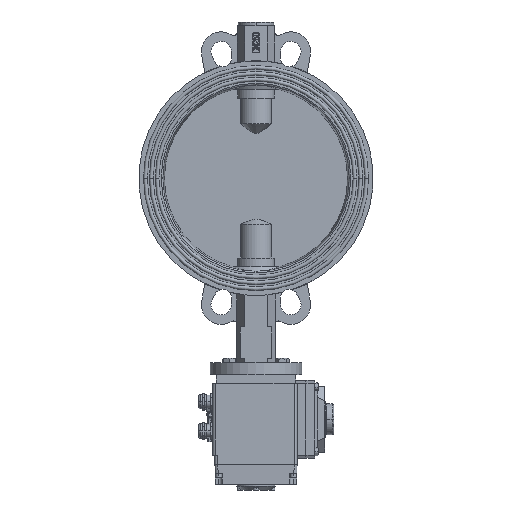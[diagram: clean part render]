
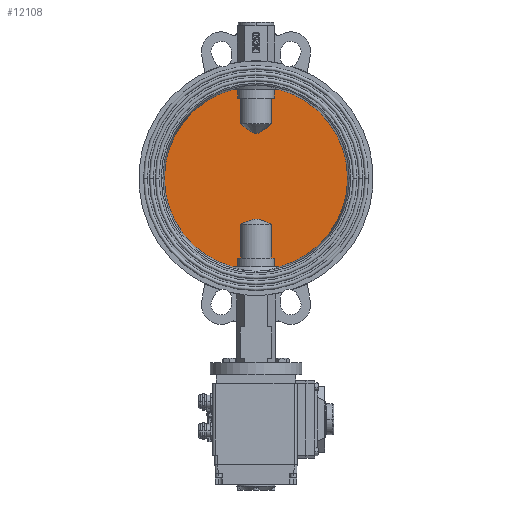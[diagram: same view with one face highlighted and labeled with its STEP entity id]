
A CAD part, front view. The second image highlights one B-rep face of the part: STEP entity #12108.
In plain terms, the highlighted planar face has unit normal (0, -1, 0) as drawn and (0, 1, 0) by its records, which use the part's own axes.
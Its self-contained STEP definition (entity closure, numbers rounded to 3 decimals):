
#11507=DIRECTION('',(0.,0.,-1.));
#11508=VECTOR('',#11507,12.);
#11509=CARTESIAN_POINT('',(25.174,6.5,-109.));
#11510=LINE('',#11509,#11508);
#11511=DIRECTION('',(1.,0.,0.));
#11512=VECTOR('',#11511,6.194);
#11513=CARTESIAN_POINT('',(25.174,6.5,-121.));
#11514=LINE('',#11513,#11512);
#11515=DIRECTION('',(-1.,0.,0.));
#11516=VECTOR('',#11515,6.711);
#11517=CARTESIAN_POINT('',(31.369,6.5,121.));
#11518=LINE('',#11517,#11516);
#11519=DIRECTION('',(0.,0.,-1.));
#11520=VECTOR('',#11519,12.);
#11521=CARTESIAN_POINT('',(24.658,6.5,121.));
#11522=LINE('',#11521,#11520);
#11523=DIRECTION('',(-1.,0.,0.));
#11524=VECTOR('',#11523,3.64);
#11525=CARTESIAN_POINT('',(24.658,6.5,109.));
#11526=LINE('',#11525,#11524);
#11527=DIRECTION('',(0.,0.,-1.));
#11528=VECTOR('',#11527,46.);
#11529=CARTESIAN_POINT('',(21.018,6.5,109.));
#11530=LINE('',#11529,#11528);
#11531=DIRECTION('',(0.,0.,-1.));
#11532=VECTOR('',#11531,46.);
#11533=CARTESIAN_POINT('',(-21.018,6.5,109.));
#11534=LINE('',#11533,#11532);
#11535=DIRECTION('',(-1.,0.,0.));
#11536=VECTOR('',#11535,3.64);
#11537=CARTESIAN_POINT('',(-21.018,6.5,109.));
#11538=LINE('',#11537,#11536);
#11539=DIRECTION('',(0.,0.,-1.));
#11540=VECTOR('',#11539,12.);
#11541=CARTESIAN_POINT('',(-24.658,6.5,121.));
#11542=LINE('',#11541,#11540);
#11543=DIRECTION('',(-1.,0.,0.));
#11544=VECTOR('',#11543,6.711);
#11545=CARTESIAN_POINT('',(-24.658,6.5,121.));
#11546=LINE('',#11545,#11544);
#11547=DIRECTION('',(1.,0.,0.));
#11548=VECTOR('',#11547,6.194);
#11549=CARTESIAN_POINT('',(-31.369,6.5,-121.));
#11550=LINE('',#11549,#11548);
#11551=DIRECTION('',(0.,0.,-1.));
#11552=VECTOR('',#11551,12.);
#11553=CARTESIAN_POINT('',(-25.174,6.5,-109.));
#11554=LINE('',#11553,#11552);
#11555=DIRECTION('',(-1.,0.,0.));
#11556=VECTOR('',#11555,4.157);
#11557=CARTESIAN_POINT('',(-21.018,6.5,-109.));
#11558=LINE('',#11557,#11556);
#11559=DIRECTION('',(0.,0.,-1.));
#11560=VECTOR('',#11559,35.);
#11561=CARTESIAN_POINT('',(-21.018,6.5,-74.));
#11562=LINE('',#11561,#11560);
#11563=DIRECTION('',(0.,0.,-1.));
#11564=VECTOR('',#11563,35.);
#11565=CARTESIAN_POINT('',(21.018,6.5,-74.));
#11566=LINE('',#11565,#11564);
#11567=DIRECTION('',(-1.,0.,0.));
#11568=VECTOR('',#11567,4.157);
#11569=CARTESIAN_POINT('',(25.174,6.5,-109.));
#11570=LINE('',#11569,#11568);
#11580=CARTESIAN_POINT('',(0.,6.5,0.));
#11581=DIRECTION('',(0.,1.,0.));
#11582=DIRECTION('',(0.251,0.,0.968));
#11583=AXIS2_PLACEMENT_3D('',#11580,#11581,#11582);
#11589=CARTESIAN_POINT('',(0.,6.5,0.));
#11590=DIRECTION('',(0.,1.,0.));
#11591=DIRECTION('',(-0.251,0.,-0.968));
#11592=AXIS2_PLACEMENT_3D('',#11589,#11590,#11591);
#11693=CARTESIAN_POINT('',(-21.018,6.5,63.));
#11694=CARTESIAN_POINT('',(-19.893,6.5,62.512));
#11695=CARTESIAN_POINT('',(-17.731,6.5,61.58));
#11696=CARTESIAN_POINT('',(-14.75,6.5,60.32));
#11697=CARTESIAN_POINT('',(-12.014,6.5,59.2));
#11698=CARTESIAN_POINT('',(-9.515,6.5,58.226));
#11699=CARTESIAN_POINT('',(-7.245,6.5,57.408));
#11700=CARTESIAN_POINT('',(-5.197,6.5,56.762));
#11701=CARTESIAN_POINT('',(-3.371,6.5,56.304));
#11702=CARTESIAN_POINT('',(-1.685,6.5,56.023));
#11703=CARTESIAN_POINT('',(-0.019,6.5,55.922));
#11704=CARTESIAN_POINT('',(1.645,6.5,56.018));
#11705=CARTESIAN_POINT('',(3.338,6.5,56.296));
#11706=CARTESIAN_POINT('',(5.175,6.5,56.755));
#11707=CARTESIAN_POINT('',(7.23,6.5,57.403));
#11708=CARTESIAN_POINT('',(9.506,6.5,58.223));
#11709=CARTESIAN_POINT('',(12.009,6.5,59.198));
#11710=CARTESIAN_POINT('',(14.748,6.5,60.32));
#11711=CARTESIAN_POINT('',(17.731,6.5,61.579));
#11712=CARTESIAN_POINT('',(19.893,6.5,62.512));
#11713=CARTESIAN_POINT('',(21.018,6.5,63.));
#11802=CARTESIAN_POINT('',(21.018,6.5,-74.));
#11803=CARTESIAN_POINT('',(20.016,6.5,-73.174));
#11804=CARTESIAN_POINT('',(18.085,6.5,-71.591));
#11805=CARTESIAN_POINT('',(15.41,6.5,-69.436));
#11806=CARTESIAN_POINT('',(12.935,6.5,-67.491));
#11807=CARTESIAN_POINT('',(10.646,6.5,-65.758));
#11808=CARTESIAN_POINT('',(8.528,6.5,-64.24));
#11809=CARTESIAN_POINT('',(6.568,6.5,-62.953));
#11810=CARTESIAN_POINT('',(4.745,6.5,-61.915));
#11811=CARTESIAN_POINT('',(3.063,6.5,-61.163));
#11812=CARTESIAN_POINT('',(1.507,6.5,-60.715));
#11813=CARTESIAN_POINT('',(0.003,6.5,-60.563));
#11814=CARTESIAN_POINT('',(-1.5,6.5,-60.714));
#11815=CARTESIAN_POINT('',(-3.055,6.5,-61.16));
#11816=CARTESIAN_POINT('',(-4.74,6.5,-61.912));
#11817=CARTESIAN_POINT('',(-6.563,6.5,-62.95));
#11818=CARTESIAN_POINT('',(-8.524,6.5,-64.237));
#11819=CARTESIAN_POINT('',(-10.643,6.5,-65.755));
#11820=CARTESIAN_POINT('',(-12.932,6.5,-67.489));
#11821=CARTESIAN_POINT('',(-15.408,6.5,-69.434));
#11822=CARTESIAN_POINT('',(-18.084,6.5,-71.59));
#11823=CARTESIAN_POINT('',(-20.016,6.5,-73.173));
#11824=CARTESIAN_POINT('',(-21.018,6.5,-74.));
#11850=CARTESIAN_POINT('',(31.369,6.5,-121.));
#11852=VERTEX_POINT('',#11850);
#11854=CARTESIAN_POINT('',(-31.369,6.5,-121.));
#11856=VERTEX_POINT('',#11854);
#11858=CARTESIAN_POINT('',(-31.369,6.5,121.));
#11860=VERTEX_POINT('',#11858);
#11862=CARTESIAN_POINT('',(31.369,6.5,121.));
#11864=VERTEX_POINT('',#11862);
#11881=CARTESIAN_POINT('',(21.018,6.5,109.));
#11882=CARTESIAN_POINT('',(21.018,6.5,63.));
#11883=VERTEX_POINT('',#11881);
#11884=VERTEX_POINT('',#11882);
#11885=CARTESIAN_POINT('',(24.658,6.5,109.));
#11886=VERTEX_POINT('',#11885);
#11887=CARTESIAN_POINT('',(-21.018,6.5,109.));
#11888=CARTESIAN_POINT('',(-24.658,6.5,109.));
#11889=VERTEX_POINT('',#11887);
#11890=VERTEX_POINT('',#11888);
#11891=CARTESIAN_POINT('',(24.658,6.5,121.));
#11892=VERTEX_POINT('',#11891);
#11893=CARTESIAN_POINT('',(-21.018,6.5,63.));
#11894=VERTEX_POINT('',#11893);
#11895=CARTESIAN_POINT('',(-24.658,6.5,121.));
#11896=VERTEX_POINT('',#11895);
#11913=CARTESIAN_POINT('',(25.174,6.5,-109.));
#11914=CARTESIAN_POINT('',(25.174,6.5,-121.));
#11915=VERTEX_POINT('',#11913);
#11916=VERTEX_POINT('',#11914);
#11917=CARTESIAN_POINT('',(21.018,6.5,-109.));
#11918=VERTEX_POINT('',#11917);
#11919=CARTESIAN_POINT('',(-21.018,6.5,-109.));
#11920=CARTESIAN_POINT('',(-25.174,6.5,-109.));
#11921=VERTEX_POINT('',#11919);
#11922=VERTEX_POINT('',#11920);
#11923=CARTESIAN_POINT('',(21.018,6.5,-74.));
#11924=VERTEX_POINT('',#11923);
#11925=CARTESIAN_POINT('',(-25.174,6.5,-121.));
#11926=VERTEX_POINT('',#11925);
#11927=CARTESIAN_POINT('',(-21.018,6.5,-74.));
#11928=VERTEX_POINT('',#11927);
#12065=CARTESIAN_POINT('',(0.,6.5,0.));
#12066=DIRECTION('',(0.,1.,0.));
#12067=DIRECTION('',(1.,0.,0.));
#12068=AXIS2_PLACEMENT_3D('',#12065,#12066,#12067);
#12069=PLANE('',#12068);
#12070=ORIENTED_EDGE('',*,*,#12034,.T.);
#12071=ORIENTED_EDGE('',*,*,#12044,.T.);
#12073=ORIENTED_EDGE('',*,*,#12072,.F.);
#12075=ORIENTED_EDGE('',*,*,#12074,.T.);
#12077=ORIENTED_EDGE('',*,*,#12076,.T.);
#12079=ORIENTED_EDGE('',*,*,#12078,.T.);
#12081=ORIENTED_EDGE('',*,*,#12080,.T.);
#12083=ORIENTED_EDGE('',*,*,#12082,.F.);
#12085=ORIENTED_EDGE('',*,*,#12084,.F.);
#12087=ORIENTED_EDGE('',*,*,#12086,.T.);
#12089=ORIENTED_EDGE('',*,*,#12088,.F.);
#12091=ORIENTED_EDGE('',*,*,#12090,.T.);
#12093=ORIENTED_EDGE('',*,*,#12092,.F.);
#12094=ORIENTED_EDGE('',*,*,#12047,.T.);
#12095=ORIENTED_EDGE('',*,*,#12030,.F.);
#12097=ORIENTED_EDGE('',*,*,#12096,.F.);
#12099=ORIENTED_EDGE('',*,*,#12098,.F.);
#12101=ORIENTED_EDGE('',*,*,#12100,.F.);
#12103=ORIENTED_EDGE('',*,*,#12102,.T.);
#12105=ORIENTED_EDGE('',*,*,#12104,.F.);
#12106=EDGE_LOOP('',(#12070,#12071,#12073,#12075,#12077,#12079,#12081,#12083,
#12085,#12087,#12089,#12091,#12093,#12094,#12095,#12097,#12099,#12101,#12103,
#12105));
#12107=FACE_OUTER_BOUND('',#12106,.F.);
#12108=ADVANCED_FACE('',(#12107),#12069,.T.);
#11584=CIRCLE('',#11583,125.);
#11593=CIRCLE('',#11592,125.);
#11714=B_SPLINE_CURVE_WITH_KNOTS('',3,(#11693,#11694,#11695,#11696,#11697,
#11698,#11699,#11700,#11701,#11702,#11703,#11704,#11705,#11706,#11707,#11708,
#11709,#11710,#11711,#11712,#11713),.UNSPECIFIED.,.F.,.F.,(4,1,1,1,1,1,1,1,1,1,
1,1,1,1,1,1,1,1,4),(0.,0.056,0.111,0.167,
0.222,0.278,0.333,0.389,
0.444,0.5,0.556,0.611,0.667,
0.722,0.778,0.833,0.889,
0.944,1.),.UNSPECIFIED.);
#11825=B_SPLINE_CURVE_WITH_KNOTS('',3,(#11802,#11803,#11804,#11805,#11806,
#11807,#11808,#11809,#11810,#11811,#11812,#11813,#11814,#11815,#11816,#11817,
#11818,#11819,#11820,#11821,#11822,#11823,#11824),.UNSPECIFIED.,.F.,.F.,(4,1,1,
1,1,1,1,1,1,1,1,1,1,1,1,1,1,1,1,1,4),(0.,0.05,0.1,0.15,0.2,0.25,
0.3,0.35,0.4,0.45,0.5,0.55,0.6,0.65,0.7,0.75,0.8,0.85,
0.9,0.95,1.),.UNSPECIFIED.);
#12030=EDGE_CURVE('',#11922,#11926,#11554,.T.);
#12034=EDGE_CURVE('',#11915,#11916,#11510,.T.);
#12044=EDGE_CURVE('',#11916,#11852,#11514,.T.);
#12047=EDGE_CURVE('',#11856,#11926,#11550,.T.);
#12072=EDGE_CURVE('',#11864,#11852,#11584,.T.);
#12074=EDGE_CURVE('',#11864,#11892,#11518,.T.);
#12076=EDGE_CURVE('',#11892,#11886,#11522,.T.);
#12078=EDGE_CURVE('',#11886,#11883,#11526,.T.);
#12080=EDGE_CURVE('',#11883,#11884,#11530,.T.);
#12082=EDGE_CURVE('',#11894,#11884,#11714,.T.);
#12084=EDGE_CURVE('',#11889,#11894,#11534,.T.);
#12086=EDGE_CURVE('',#11889,#11890,#11538,.T.);
#12088=EDGE_CURVE('',#11896,#11890,#11542,.T.);
#12090=EDGE_CURVE('',#11896,#11860,#11546,.T.);
#12092=EDGE_CURVE('',#11856,#11860,#11593,.T.);
#12096=EDGE_CURVE('',#11921,#11922,#11558,.T.);
#12098=EDGE_CURVE('',#11928,#11921,#11562,.T.);
#12100=EDGE_CURVE('',#11924,#11928,#11825,.T.);
#12102=EDGE_CURVE('',#11924,#11918,#11566,.T.);
#12104=EDGE_CURVE('',#11915,#11918,#11570,.T.);
